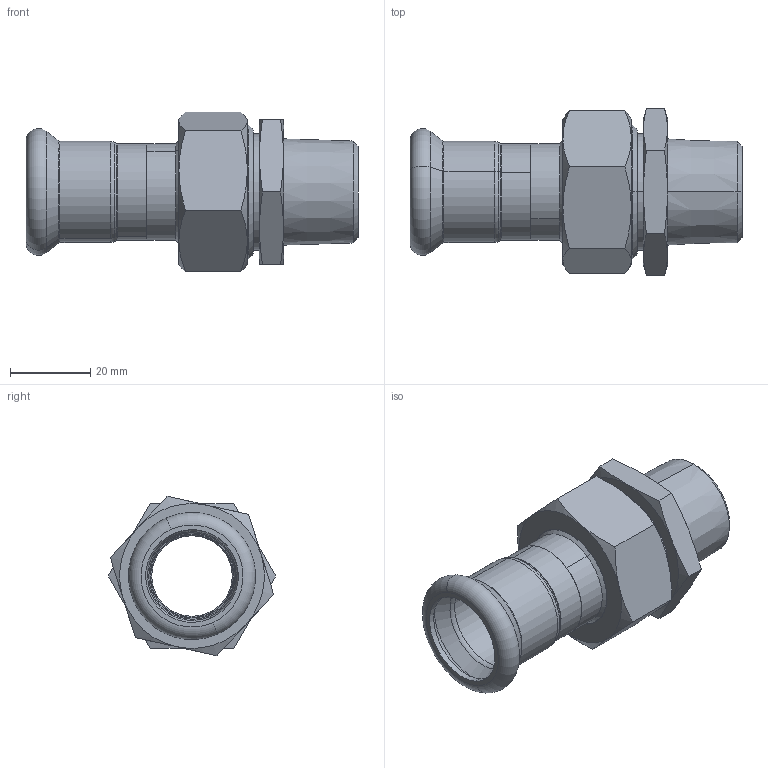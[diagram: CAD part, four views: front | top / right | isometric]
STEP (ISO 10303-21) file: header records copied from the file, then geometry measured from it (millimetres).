
FILE_DESCRIPTION (( 'STEP AP203' ), '1' );
FILE_NAME ('GDA5436.STEP', '2019-01-21T05:23:01', ( '' ), ( '' ), 'SwSTEP 2.0', 'SolidWorks 2015', '' );
FILE_SCHEMA (( 'CONFIG_CONTROL_DESIGN' ));
Length unit declared in the file: millimetre
Products named in the file (6): T-ｉ-01-22; 蛌遙諉芛1-0.75; GDA5436; 22｡ﾁ1; 1; ZL-¢ñ-01¡Á1
Assembly tree (5 placements, depth 2):
  GDA5436
    1
    22｡ﾁ1
    T-ｉ-01-22
    ZL-¢ñ-01¡Á1
    蛌遙諉芛1-0.75
Bounding box: 82.5 x 41.57 x 39.67 mm (x, y, z)
Volume: 28783.9 mm3; surface area: 21275.4 mm2
Topology: 5 solids, 5 shells, 124 faces, 256 edges, 148 vertices
Faces by surface type: cone 48, cylinder 32, plane 28, torus 16
Entity records: 4100 total; most frequent: CARTESIAN_POINT 824, DIRECTION 612, ORIENTED_EDGE 512, AXIS2_PLACEMENT_3D 272, EDGE_CURVE 256, VERTEX_POINT 148, CIRCLE 140, EDGE_LOOP 140
